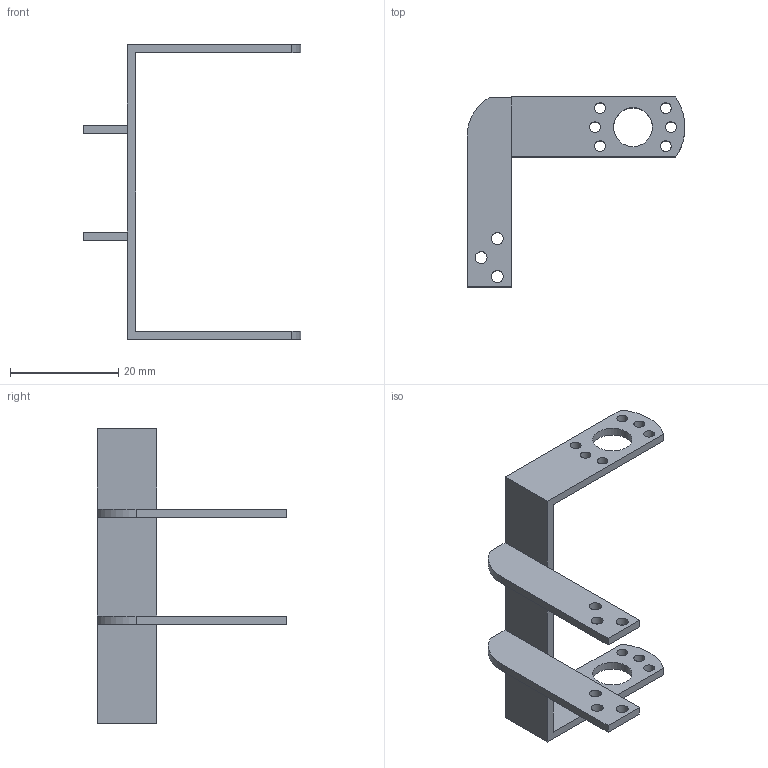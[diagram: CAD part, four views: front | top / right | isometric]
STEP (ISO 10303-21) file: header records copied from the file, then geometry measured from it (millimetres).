
FILE_DESCRIPTION(/* description */ (''),/* implementation_level */ '2;1');
FILE_NAME(/* name */ 'C:/Users/priba/Downloads/GripperCoupler24mmShift.step',/* time_stamp */ '2020-11-08T21:14:16+01:00',/* author */ (''),/* organization */ (''),/* preprocessor_version */ 'ST-DEVELOPER v18.1',/* originating_system */ 'Autodesk Translation Framework v9.3.0.1241',/* authorisation */ '');
FILE_SCHEMA (('AUTOMOTIVE_DESIGN { 1 0 10303 214 3 1 1 }'));
Length unit declared in the file: millimetre
Products named in the file (2): GripperCoupler24mmShift; GripperCoupler
Assembly tree (1 placements, depth 2):
  GripperCoupler24mmShift
    GripperCoupler
Bounding box: 40.15 x 35 x 54.35 mm (x, y, z)
Volume: 2503.2 mm3; surface area: 4136.6 mm2
Topology: 1 solids, 1 shells, 44 faces, 122 edges, 80 vertices
Faces by surface type: cylinder 24, plane 20
Full cylindrical faces by diameter (mm): 2 x12, 2.2 x6, 7.2 x2
Entity records: 1555 total; most frequent: DIRECTION 264, CARTESIAN_POINT 249, ORIENTED_EDGE 244, EDGE_CURVE 122, AXIS2_PLACEMENT_3D 95, EDGE_LOOP 84, VERTEX_POINT 80, LINE 74
